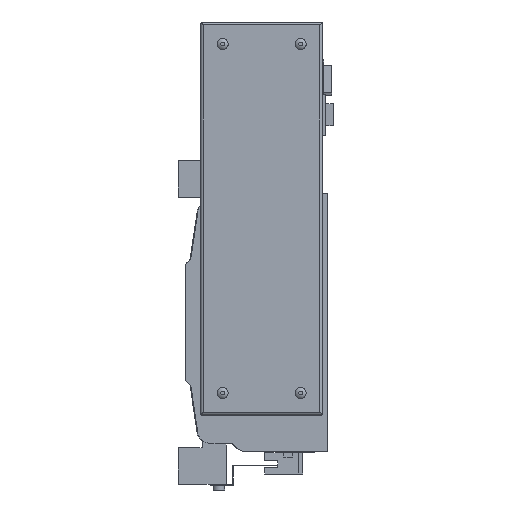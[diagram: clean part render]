
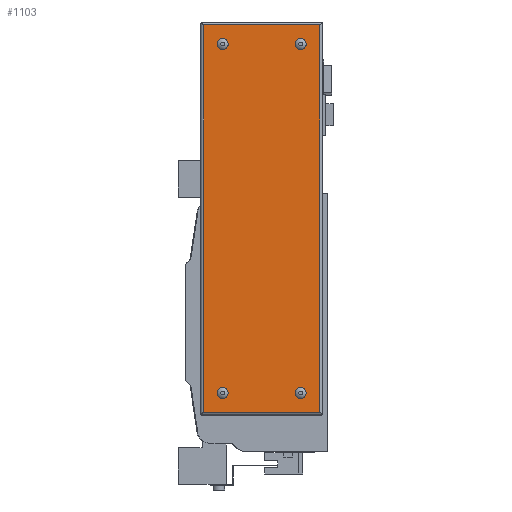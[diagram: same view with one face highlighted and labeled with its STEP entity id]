
A CAD part, left-side view. The second image highlights one B-rep face of the part: STEP entity #1103.
In plain terms, the highlighted planar face has unit normal (-1, 0, 0).
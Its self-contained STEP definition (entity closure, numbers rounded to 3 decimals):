
#1103 = ADVANCED_FACE( '', ( #2520, #2521, #2522, #2523, #2524 ), #2525, .F. );
#2520 = FACE_BOUND( '', #4383, .T. );
#2521 = FACE_BOUND( '', #4384, .T. );
#2522 = FACE_BOUND( '', #4385, .T. );
#2523 = FACE_BOUND( '', #4386, .T. );
#2524 = FACE_OUTER_BOUND( '', #4387, .T. );
#2525 = PLANE( '', #4388 );
#4383 = EDGE_LOOP( '', ( #7189 ) );
#4384 = EDGE_LOOP( '', ( #7190 ) );
#4385 = EDGE_LOOP( '', ( #7191 ) );
#4386 = EDGE_LOOP( '', ( #7192 ) );
#4387 = EDGE_LOOP( '', ( #7193, #7194, #7195, #7196 ) );
#4388 = AXIS2_PLACEMENT_3D( '', #7197, #7198, #7199 );
#7189 = ORIENTED_EDGE( '', *, *, #11521, .F. );
#7190 = ORIENTED_EDGE( '', *, *, #10668, .F. );
#7191 = ORIENTED_EDGE( '', *, *, #11522, .F. );
#7192 = ORIENTED_EDGE( '', *, *, #11523, .F. );
#7193 = ORIENTED_EDGE( '', *, *, #10753, .F. );
#7194 = ORIENTED_EDGE( '', *, *, #11524, .F. );
#7195 = ORIENTED_EDGE( '', *, *, #11525, .T. );
#7196 = ORIENTED_EDGE( '', *, *, #11526, .T. );
#7197 = CARTESIAN_POINT( '', ( -66., 0., 0. ) );
#7198 = DIRECTION( '', ( 1., 0., 0. ) );
#7199 = DIRECTION( '', ( 0., 0., -1. ) );
#10668 = EDGE_CURVE( '', #12629, #12629, #12630, .F. );
#10753 = EDGE_CURVE( '', #12778, #12780, #12781, .T. );
#11521 = EDGE_CURVE( '', #14063, #14063, #14064, .F. );
#11522 = EDGE_CURVE( '', #14065, #14065, #14066, .F. );
#11523 = EDGE_CURVE( '', #14067, #14067, #14068, .F. );
#11524 = EDGE_CURVE( '', #14069, #12778, #14070, .T. );
#11525 = EDGE_CURVE( '', #14069, #14071, #14072, .T. );
#11526 = EDGE_CURVE( '', #14071, #12780, #14073, .T. );
#12629 = VERTEX_POINT( '', #15538 );
#12630 = CIRCLE( '', #15539, 3.7 );
#12778 = VERTEX_POINT( '', #15739 );
#12780 = VERTEX_POINT( '', #15741 );
#12781 = LINE( '', #15742, #15743 );
#14063 = VERTEX_POINT( '', #17509 );
#14064 = CIRCLE( '', #17510, 3.7 );
#14065 = VERTEX_POINT( '', #17511 );
#14066 = CIRCLE( '', #17512, 3.7 );
#14067 = VERTEX_POINT( '', #17513 );
#14068 = CIRCLE( '', #17514, 3.7 );
#14069 = VERTEX_POINT( '', #17515 );
#14070 = LINE( '', #17516, #17517 );
#14071 = VERTEX_POINT( '', #17518 );
#14072 = LINE( '', #17519, #17520 );
#14073 = LINE( '', #17521, #17522 );
#15538 = CARTESIAN_POINT( '', ( -66., 18.5, -51.7 ) );
#15539 = AXIS2_PLACEMENT_3D( '', #19503, #19504, #19505 );
#15739 = CARTESIAN_POINT( '', ( -66., 5.5, 202. ) );
#15741 = CARTESIAN_POINT( '', ( -66., 5.5, -61. ) );
#15742 = CARTESIAN_POINT( '', ( -66., 5.5, 267. ) );
#15743 = VECTOR( '', #19600, 1000. );
#17509 = CARTESIAN_POINT( '', ( -66., 18.5, 185.3 ) );
#17510 = AXIS2_PLACEMENT_3D( '', #20457, #20458, #20459 );
#17511 = CARTESIAN_POINT( '', ( -66., 71.5, 185.3 ) );
#17512 = AXIS2_PLACEMENT_3D( '', #20460, #20461, #20462 );
#17513 = CARTESIAN_POINT( '', ( -66., 71.5, -51.7 ) );
#17514 = AXIS2_PLACEMENT_3D( '', #20463, #20464, #20465 );
#17515 = CARTESIAN_POINT( '', ( -66., 84.5, 202. ) );
#17516 = CARTESIAN_POINT( '', ( -66., 267., 202. ) );
#17517 = VECTOR( '', #20466, 1000. );
#17518 = CARTESIAN_POINT( '', ( -66., 84.5, -61. ) );
#17519 = CARTESIAN_POINT( '', ( -66., 84.5, 267. ) );
#17520 = VECTOR( '', #20467, 1000. );
#17521 = CARTESIAN_POINT( '', ( -66., 267., -61. ) );
#17522 = VECTOR( '', #20468, 1000. );
#19503 = CARTESIAN_POINT( '', ( -66., 18.5, -48. ) );
#19504 = DIRECTION( '', ( 1., 0., 0. ) );
#19505 = DIRECTION( '', ( 0., 0., -1. ) );
#19600 = DIRECTION( '', ( 0., 0., -1. ) );
#20457 = CARTESIAN_POINT( '', ( -66., 18.5, 189. ) );
#20458 = DIRECTION( '', ( 1., 0., 0. ) );
#20459 = DIRECTION( '', ( 0., 0., -1. ) );
#20460 = CARTESIAN_POINT( '', ( -66., 71.5, 189. ) );
#20461 = DIRECTION( '', ( 1., 0., 0. ) );
#20462 = DIRECTION( '', ( 0., 0., -1. ) );
#20463 = CARTESIAN_POINT( '', ( -66., 71.5, -48. ) );
#20464 = DIRECTION( '', ( 1., 0., 0. ) );
#20465 = DIRECTION( '', ( 0., 0., -1. ) );
#20466 = DIRECTION( '', ( 0., -1., 0. ) );
#20467 = DIRECTION( '', ( 0., 0., -1. ) );
#20468 = DIRECTION( '', ( 0., -1., 0. ) );
